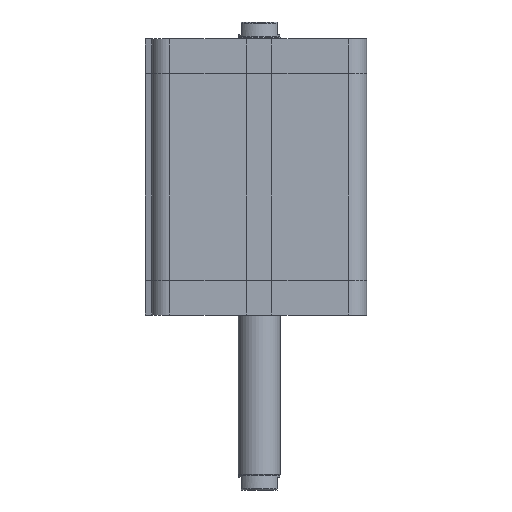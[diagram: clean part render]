
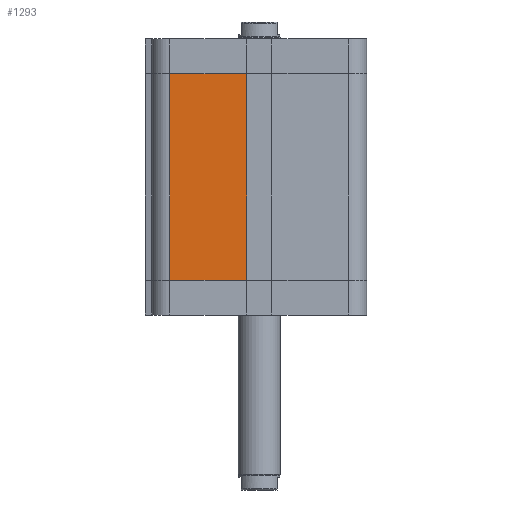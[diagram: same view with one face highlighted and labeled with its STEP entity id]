
A CAD part, left-side view. The second image highlights one B-rep face of the part: STEP entity #1293.
In plain terms, the highlighted planar face has unit normal (-1, 0, 0).
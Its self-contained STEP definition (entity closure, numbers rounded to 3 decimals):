
#1204=CARTESIAN_POINT('',(-51.0,42.5,16.5));
#1205=VERTEX_POINT('',#1204);
#1213=CARTESIAN_POINT('',(-51.0,42.5,114.5));
#1214=VERTEX_POINT('',#1213);
#1215=CARTESIAN_POINT('',(-51.0,42.5,16.5));
#1216=DIRECTION('',(0.0,0.0,1.0));
#1217=VECTOR('',#1216,98.0);
#1218=LINE('',#1215,#1217);
#1219=EDGE_CURVE('',#1205,#1214,#1218,.T.);
#1263=CARTESIAN_POINT('',(-51.,6.,0.0));
#1264=DIRECTION('',(-1.0,0.0,0.0));
#1265=DIRECTION('',(0.0,0.0,1.0));
#1266=AXIS2_PLACEMENT_3D('',#1263,#1264,#1265);
#1267=PLANE('',#1266);
#1268=CARTESIAN_POINT('',(-51.,6.,16.5));
#1269=VERTEX_POINT('',#1268);
#1270=CARTESIAN_POINT('',(-51.0,42.5,16.5));
#1271=DIRECTION('',(0.0,-1.0,0.0));
#1272=VECTOR('',#1271,36.5);
#1273=LINE('',#1270,#1272);
#1274=EDGE_CURVE('',#1205,#1269,#1273,.T.);
#1275=ORIENTED_EDGE('',*,*,#1274,.T.);
#1276=CARTESIAN_POINT('',(-51.,6.,114.5));
#1277=VERTEX_POINT('',#1276);
#1278=CARTESIAN_POINT('',(-51.,6.,16.5));
#1279=DIRECTION('',(0.0,0.0,1.0));
#1280=VECTOR('',#1279,98.0);
#1281=LINE('',#1278,#1280);
#1282=EDGE_CURVE('',#1269,#1277,#1281,.T.);
#1283=ORIENTED_EDGE('',*,*,#1282,.T.);
#1284=CARTESIAN_POINT('',(-51.0,42.5,114.5));
#1285=DIRECTION('',(0.0,-1.0,0.0));
#1286=VECTOR('',#1285,36.5);
#1287=LINE('',#1284,#1286);
#1288=EDGE_CURVE('',#1214,#1277,#1287,.T.);
#1289=ORIENTED_EDGE('',*,*,#1288,.F.);
#1290=ORIENTED_EDGE('',*,*,#1219,.F.);
#1291=EDGE_LOOP('',(#1275,#1283,#1289,#1290));
#1292=FACE_OUTER_BOUND('',#1291,.T.);
#1293=ADVANCED_FACE('',(#1292),#1267,.T.);
